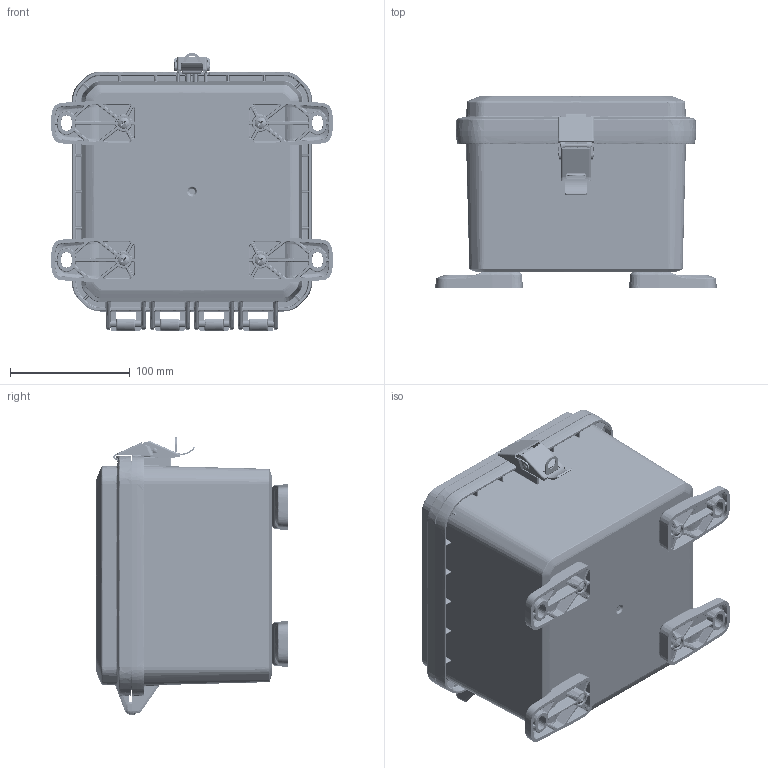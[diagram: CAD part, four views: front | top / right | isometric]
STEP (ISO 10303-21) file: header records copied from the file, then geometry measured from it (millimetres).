
FILE_DESCRIPTION (( 'STEP AP214' ), '1' );
FILE_NAME ('HP-070705-04.STEP', '2025-02-12T11:36:30', ( '' ), ( '' ), 'SwSTEP 2.0', 'SolidWorks 2024', '' );
FILE_SCHEMA (( 'AUTOMOTIVE_DESIGN' ));
Length unit declared in the file: inch
Products named in the file (16): HP-07071C_HP-07071C-02; HP-0707xBI_HP-07074BI-00; HP-070705-04; ZH-01L5; HP-0707G; SCREWS-046_SCREWS-046; ZH-01L4; HP-07071CG_HP-07071CG-02; ZH-01L1; HP-0707xB_HP-07074B-00; ZH-01L2; INSERTS-4; ZH-01L3; ZH-01L; ZH-01F_ZH-01F-00; LABEL-105
Assembly tree (24 placements, depth 3):
  HP-070705-04
    HP-0707xBI_HP-07074BI-00
      HP-0707xB_HP-07074B-00
      LABEL-105
      INSERTS-4  x4
    HP-07071CG_HP-07071CG-02
      HP-07071C_HP-07071C-02
      HP-0707G
    ZH-01L
      ZH-01L1
      ZH-01L2
      ZH-01L3
      ZH-01L4
      ZH-01L5
    ZH-01F_ZH-01F-00  x4
    SCREWS-046_SCREWS-046  x4
Bounding box: 234.95 x 159.51 x 232.37 mm (x, y, z)
Volume: 738227.1 mm3; surface area: 478813.1 mm2
Topology: 21 solids, 21 shells, 6809 faces, 16326 edges, 9472 vertices
Faces by surface type: bspline 2395, cylinder 1533, plane 1195, cone 832, torus 686, sphere 168
Entity records: 212011 total; most frequent: CARTESIAN_POINT 115017, ORIENTED_EDGE 22632, DIRECTION 17502, EDGE_CURVE 11316, AXIS2_PLACEMENT_3D 7186, VERTEX_POINT 6556, EDGE_LOOP 4894, ADVANCED_FACE 4817
